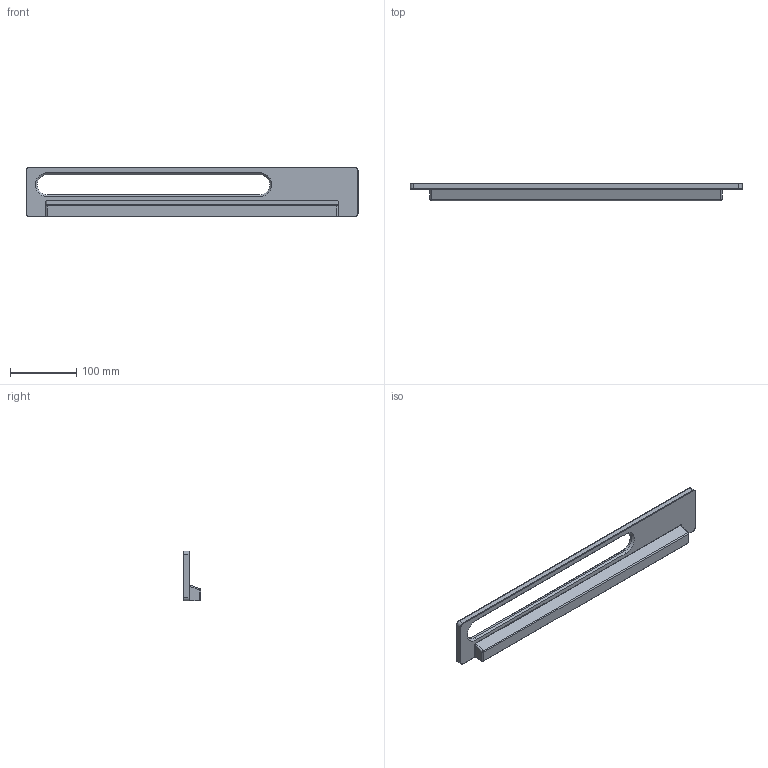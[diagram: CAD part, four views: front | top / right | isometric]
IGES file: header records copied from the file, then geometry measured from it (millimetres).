
Start section:  PTC IGES file: yt87s5r.igs
Global section: file name: yt87s5r.igs; native system: Pro/ENGINEER by Parametric Technology Corporation; preprocessor: 2009140; author: damjan; organization: Unknown; date: 20100831.083633; units: millimetre
Bounding box: 500 x 26 x 75 mm (x, y, z)
Volume: 396131.4 mm3; surface area: 81283.9 mm2
Topology: 1 solids, 1 shells, 62 faces, 138 edges, 78 vertices
Faces by surface type: revolution 44, bspline 18
